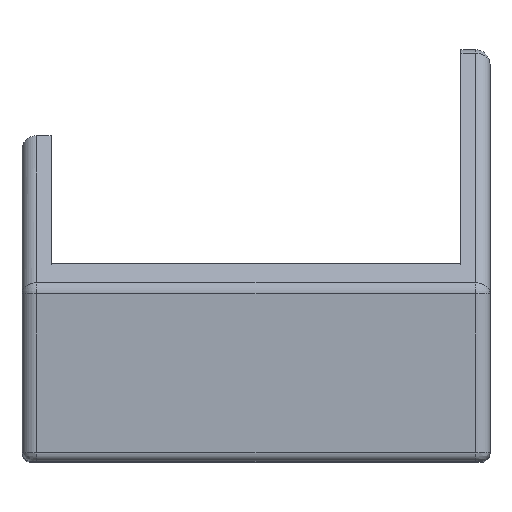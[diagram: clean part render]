
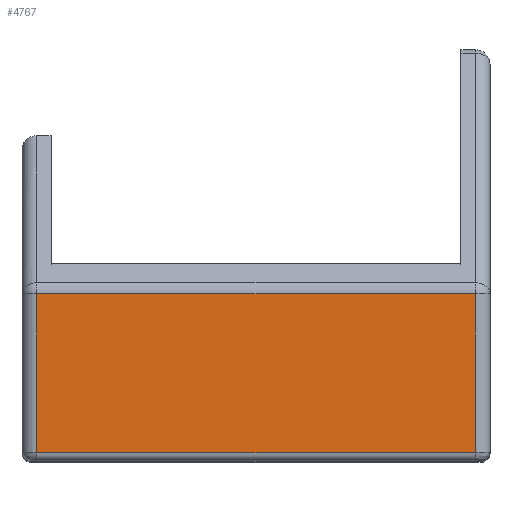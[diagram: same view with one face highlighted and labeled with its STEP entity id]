
A CAD part, top view. The second image highlights one B-rep face of the part: STEP entity #4767.
In plain terms, the highlighted planar face has unit normal (0, 0, 1).
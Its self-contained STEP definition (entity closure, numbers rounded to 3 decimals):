
#245=PLANE('',#4994);
#509=FACE_OUTER_BOUND('',#788,.T.);
#788=EDGE_LOOP('',(#4346,#4347,#4348,#4349));
#1062=LINE('',#9225,#1398);
#1063=LINE('',#9238,#1399);
#1066=LINE('',#9260,#1402);
#1067=LINE('',#9262,#1403);
#1398=VECTOR('',#5511,10.);
#1399=VECTOR('',#5516,10.);
#1402=VECTOR('',#5547,10.);
#1403=VECTOR('',#5550,10.);
#2182=VERTEX_POINT('',#9219);
#2183=VERTEX_POINT('',#9223);
#2184=VERTEX_POINT('',#9237);
#2189=VERTEX_POINT('',#9255);
#2858=EDGE_CURVE('',#2183,#2182,#1062,.T.);
#2860=EDGE_CURVE('',#2182,#2184,#1063,.T.);
#2872=EDGE_CURVE('',#2184,#2189,#1066,.T.);
#2873=EDGE_CURVE('',#2189,#2183,#1067,.T.);
#4346=ORIENTED_EDGE('',*,*,#2858,.F.);
#4347=ORIENTED_EDGE('',*,*,#2873,.F.);
#4348=ORIENTED_EDGE('',*,*,#2872,.F.);
#4349=ORIENTED_EDGE('',*,*,#2860,.F.);
#4767=ADVANCED_FACE('',(#509),#245,.T.);
#4994=AXIS2_PLACEMENT_3D('',#9384,#5664,#5665);
#5511=DIRECTION('',(-1.,0.,0.));
#5516=DIRECTION('',(0.,1.,0.));
#5547=DIRECTION('',(1.,0.,0.));
#5550=DIRECTION('',(0.,-1.,0.));
#5664=DIRECTION('center_axis',(0.,0.,1.));
#5665=DIRECTION('ref_axis',(-1.,0.,0.));
#9219=CARTESIAN_POINT('',(-15.1,-2.8,16.2));
#9223=CARTESIAN_POINT('',(15.1,-2.8,16.2));
#9225=CARTESIAN_POINT('',(8.05,-2.8,16.2));
#9237=CARTESIAN_POINT('',(-15.1,8.128,16.2));
#9238=CARTESIAN_POINT('',(-15.1,-2.,16.2));
#9255=CARTESIAN_POINT('',(15.1,8.128,16.2));
#9260=CARTESIAN_POINT('',(8.05,8.128,16.2));
#9262=CARTESIAN_POINT('',(15.1,-2.,16.2));
#9384=CARTESIAN_POINT('Origin',(16.1,-2.,16.2));
